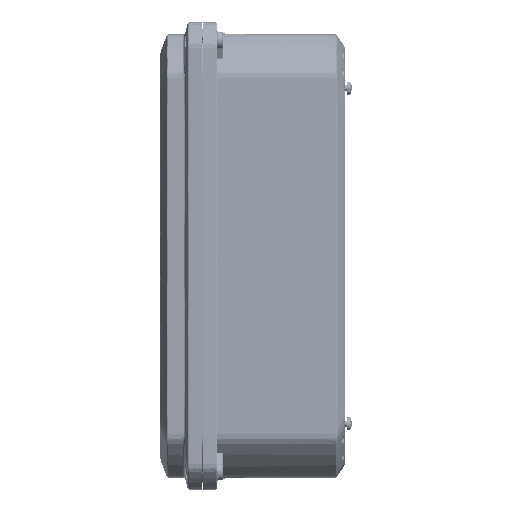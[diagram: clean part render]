
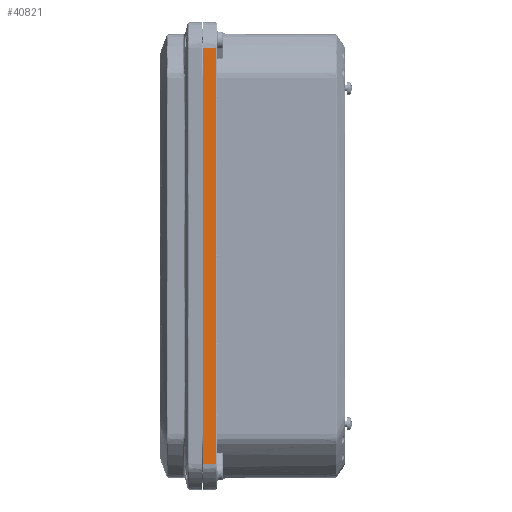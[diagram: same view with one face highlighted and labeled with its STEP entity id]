
A CAD part, left-side view. The second image highlights one B-rep face of the part: STEP entity #40821.
In plain terms, the highlighted planar face has unit normal (-0.999, -0.035, 0).
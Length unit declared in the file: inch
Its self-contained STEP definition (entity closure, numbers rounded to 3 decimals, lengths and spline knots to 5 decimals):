
#1430 = LINE ( 'NONE', #43957, #5945 ) ;
#5945 = VECTOR ( 'NONE', #29849, 39.37008 ) ;
#10043 = EDGE_CURVE ( 'NONE', #59340, #101370, #101780, .T. ) ;
#11971 = DIRECTION ( 'NONE',  ( 0., 0., 1. ) ) ;
#17407 = CARTESIAN_POINT ( 'NONE',  ( -7.62, 0., -5.89046 ) ) ;
#18709 = DIRECTION ( 'NONE',  ( 0.035, -0.999, 0. ) ) ;
#20178 = EDGE_CURVE ( 'NONE', #180115, #59340, #95049, .T. ) ;
#21963 = EDGE_LOOP ( 'NONE', ( #97009, #105310, #180821, #52654 ) ) ;
#29849 = DIRECTION ( 'NONE',  ( 0., 0., 1. ) ) ;
#40640 = DIRECTION ( 'NONE',  ( 0.035, -0.999, 0. ) ) ;
#40821 = ADVANCED_FACE ( 'NONE', ( #211677 ), #96057, .T. ) ;
#43957 = CARTESIAN_POINT ( 'NONE',  ( -7.60772, -0.35174, 5.89046 ) ) ;
#52654 = ORIENTED_EDGE ( 'NONE', *, *, #178534, .T. ) ;
#59340 = VERTEX_POINT ( 'NONE', #75647 ) ;
#75647 = CARTESIAN_POINT ( 'NONE',  ( -7.62, 0., 5.89046 ) ) ;
#80933 = VERTEX_POINT ( 'NONE', #88181 ) ;
#88181 = CARTESIAN_POINT ( 'NONE',  ( -7.60772, -0.35174, -5.89046 ) ) ;
#89410 = VECTOR ( 'NONE', #40640, 39.37008 ) ;
#95049 = LINE ( 'NONE', #158871, #130850 ) ;
#96057 = PLANE ( 'NONE',  #176252 ) ;
#97009 = ORIENTED_EDGE ( 'NONE', *, *, #194716, .T. ) ;
#101370 = VERTEX_POINT ( 'NONE', #131081 ) ;
#101780 = LINE ( 'NONE', #166652, #177977 ) ;
#105310 = ORIENTED_EDGE ( 'NONE', *, *, #10043, .F. ) ;
#130850 = VECTOR ( 'NONE', #11971, 39.37008 ) ;
#131081 = CARTESIAN_POINT ( 'NONE',  ( -7.60772, -0.35174, 5.89046 ) ) ;
#154058 = CARTESIAN_POINT ( 'NONE',  ( -7.62, 0., -5.89046 ) ) ;
#158785 = CARTESIAN_POINT ( 'NONE',  ( -7.62, 0., 6.3 ) ) ;
#158871 = CARTESIAN_POINT ( 'NONE',  ( -7.62, 0., 6.3 ) ) ;
#166652 = CARTESIAN_POINT ( 'NONE',  ( -7.62, 0., 5.89046 ) ) ;
#176064 = DIRECTION ( 'NONE',  ( 0.035, -0.999, 0. ) ) ;
#176252 = AXIS2_PLACEMENT_3D ( 'NONE', #158785, #207407, #176064 ) ;
#177977 = VECTOR ( 'NONE', #18709, 39.37008 ) ;
#178534 = EDGE_CURVE ( 'NONE', #180115, #80933, #202642, .T. ) ;
#180115 = VERTEX_POINT ( 'NONE', #17407 ) ;
#180821 = ORIENTED_EDGE ( 'NONE', *, *, #20178, .F. ) ;
#194716 = EDGE_CURVE ( 'NONE', #80933, #101370, #1430, .T. ) ;
#202642 = LINE ( 'NONE', #154058, #89410 ) ;
#207407 = DIRECTION ( 'NONE',  ( -0.999, -0.035, 0. ) ) ;
#211677 = FACE_OUTER_BOUND ( 'NONE', #21963, .T. ) ;
